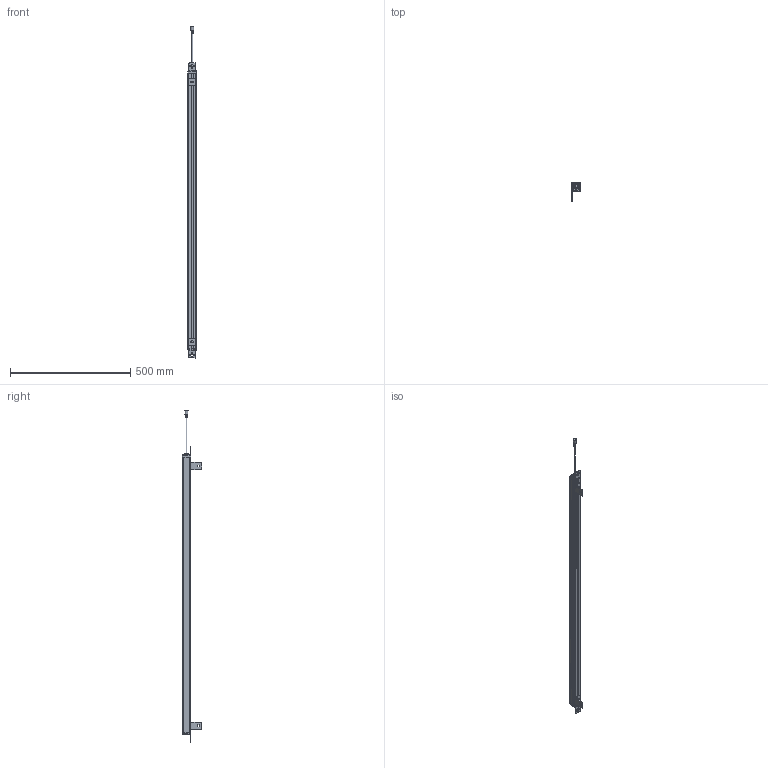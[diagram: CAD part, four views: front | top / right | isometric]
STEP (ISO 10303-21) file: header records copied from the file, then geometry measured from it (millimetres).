
FILE_DESCRIPTION(/* description */ (''),/* implementation_level */ '2;1');
FILE_NAME(/* name */ 'MTD2840.stp',/* time_stamp */ '2023-12-04T16:35:05+08:00',/* author */ (''),/* organization */ (''),/* preprocessor_version */ 'ST-DEVELOPER v16.7',/* originating_system */ 'SIEMENS PLM Software NX 12.0',/* authorisation */ '');
FILE_SCHEMA (('AP203_CONFIGURATION_CONTROLLED_3D_DESIGN_OF_MECHANICAL_PARTS_AND_ASSEMBLIES_MIM_LF { 1 0 10303 403 2 1 2}'));
Length unit declared in the file: millimetre
Products named in the file (1): 1040（35X35__stp
Bounding box: 37 x 80.6 x 1382.01 mm (x, y, z)
Volume: 566981.7 mm3; surface area: 426556.9 mm2
Topology: 10 solids, 10 shells, 563 faces, 1626 edges, 1096 vertices
Faces by surface type: plane 325, cylinder 202, cone 36
Full cylindrical faces by diameter (mm): 4.4 x1, 9 x1, 12.5 x1
Entity records: 18960 total; most frequent: CARTESIAN_POINT 3363, DIRECTION 3263, ORIENTED_EDGE 3230, EDGE_CURVE 1615, VERTEX_POINT 1092, AXIS2_PLACEMENT_3D 1088, LINE 1087, VECTOR 1087
